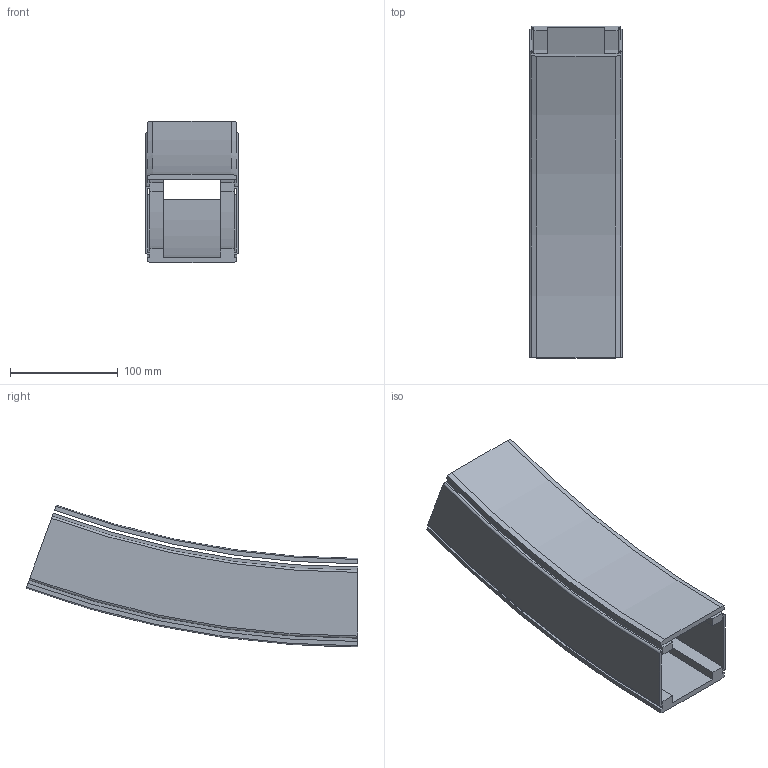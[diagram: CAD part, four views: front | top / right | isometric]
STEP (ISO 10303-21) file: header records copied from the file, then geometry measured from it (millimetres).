
FILE_DESCRIPTION(/* description */ ('VERTIKALKURVA S530 R860'),/* implementation_level */ '2;1');
FILE_NAME(/* name */ '530-5695+830-2000-NER-01.stp',/* time_stamp */ '2022-09-21T07:24:53+02:00',/* author */ ('Mathias.Dore'),/* organization */ ('CARRYLINE'),/* preprocessor_version */ 'ST-DEVELOPER v19.2',/* originating_system */ 'Autodesk Inventor 2023',/* authorisation */ '');
FILE_SCHEMA (('AUTOMOTIVE_DESIGN { 1 0 10303 214 3 1 1 }'));
Length unit declared in the file: millimetre
Products named in the file (1): 530-5695+830-2000-NER-01
Bounding box: 86 x 307.65 x 131.3 mm (x, y, z)
Volume: 445229.4 mm3; surface area: 218023.2 mm2
Topology: 2 solids, 2 shells, 87 faces, 234 edges, 156 vertices
Faces by surface type: plane 40, cylinder 25, bspline 14, cone 4, torus 4
Entity records: 7351 total; most frequent: CARTESIAN_POINT 5152, ORIENTED_EDGE 468, DIRECTION 408, EDGE_CURVE 234, VERTEX_POINT 156, AXIS2_PLACEMENT_3D 141, LINE 126, VECTOR 126
